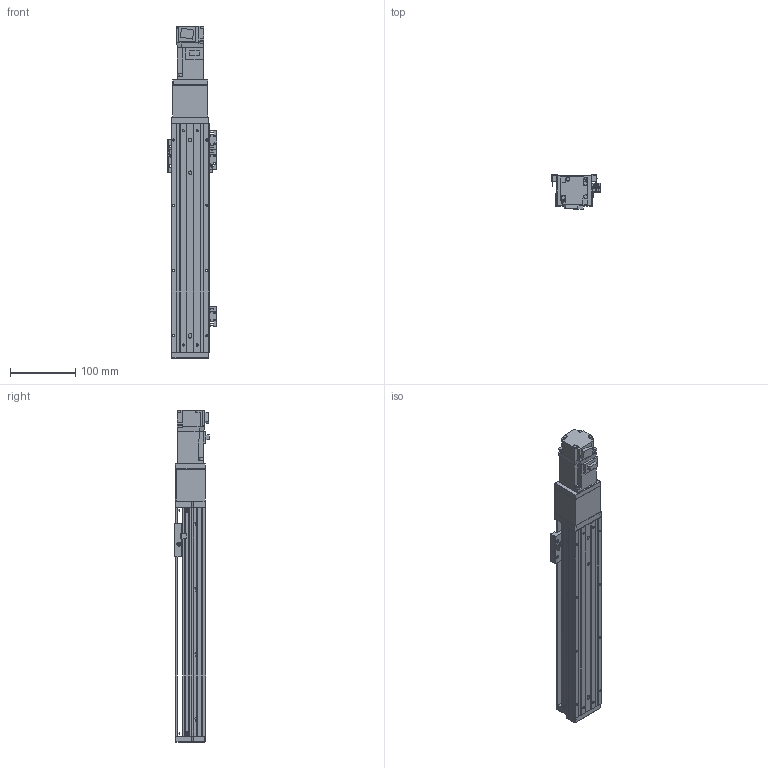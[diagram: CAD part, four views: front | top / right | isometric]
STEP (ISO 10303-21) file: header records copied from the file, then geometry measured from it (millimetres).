
FILE_DESCRIPTION (( 'STEP AP203' ), '1' );
FILE_NAME ('KTHA50-250-BC-M10-C4L.step', '2022-03-19T07:02:46', ( '微软用户' ), ( '微软中国' ), 'SwSTEP 2.0', 'SolidWorks 2020', '' );
FILE_SCHEMA (( 'CONFIG_CONTROL_DESIGN' ));
Length unit declared in the file: millimetre
Products named in the file (18): GBT77-2000 M3×3; CTHA50-027; KTHA50-001_350; GBT 70.1-M3℅6; CTHA50-006-2_CTHA60-006-2; KTHA50-002; CTHA60-017; CTHA50-013; KTHA50-004; GBT 70.1-M4×12; HG-KR13（三菱）; KTHA50-005; CTHA60-016; KTHA50-250-BC-M10-C4L; GB¨uT 70.2-M3¡Á6_M3¡Á6; CTHA60-021; EE_SX911P_R; GBT 70.3-M3℅6
Assembly tree (52 placements, depth 2):
  KTHA50-250-BC-M10-C4L
    KTHA50-001_350
    KTHA50-002
    KTHA50-004
    KTHA50-005
    GB¨uT 70.2-M3¡Á6_M3¡Á6  x6
    EE_SX911P_R  x3
    GBT77-2000 M3×3  x6
    GBT 70.1-M3℅6  x6
    CTHA60-017  x3
    GBT 70.1-M4×12  x10
    CTHA60-016  x2
    CTHA60-021  x2
    GBT 70.3-M3℅6  x6
    CTHA50-027
    CTHA50-006-2_CTHA60-006-2
    CTHA50-013
    HG-KR13（三菱）
Bounding box: 75.22 x 53.3 x 508.6 mm (x, y, z)
Volume: 873828.1 mm3; surface area: 230626.4 mm2
Topology: 55 solids, 55 shells, 2126 faces, 5010 edges, 3064 vertices
Faces by surface type: plane 1208, cylinder 500, cone 314, torus 88, sphere 16
Entity records: 33602 total; most frequent: CARTESIAN_POINT 5466, DIRECTION 5400, ORIENTED_EDGE 5092, EDGE_CURVE 2546, AXIS2_PLACEMENT_3D 1811, VECTOR 1778, LINE 1778, VERTEX_POINT 1597
